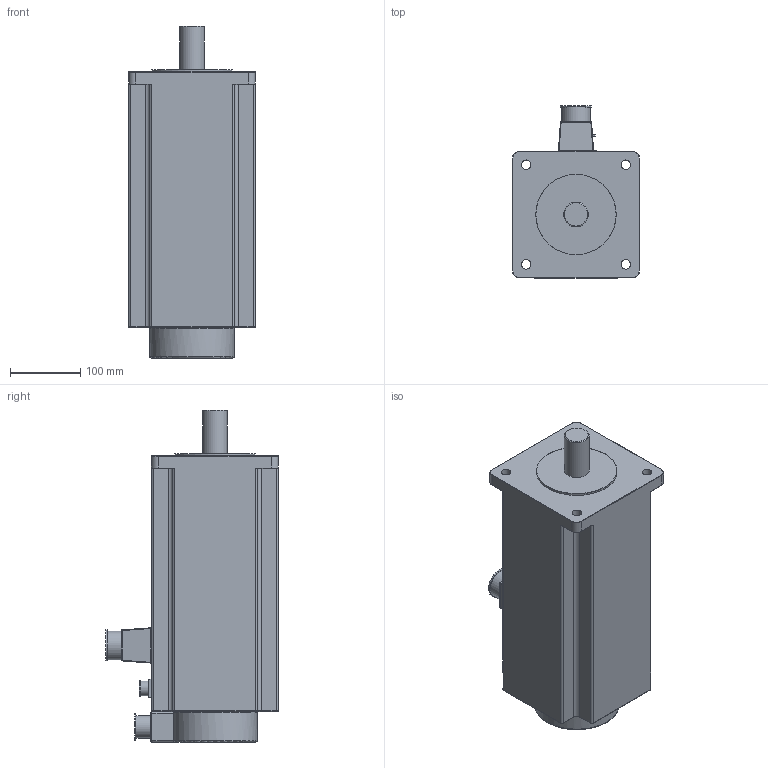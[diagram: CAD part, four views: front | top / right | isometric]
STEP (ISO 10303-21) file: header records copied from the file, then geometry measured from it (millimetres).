
FILE_DESCRIPTION(/* description */ (''),/* implementation_level */ '2;1');
FILE_NAME(/* name */ '180MAH48015 - FZ.stp',/* time_stamp */ '2019-11-22T13:57:09+08:00',/* author */ (''),/* organization */ (''),/* preprocessor_version */ 'ST-DEVELOPER v16',/* originating_system */ 'SIEMENS PLM Software NX 10.0',/* authorisation */ '');
FILE_SCHEMA (('CONFIG_CONTROL_DESIGN'));
Length unit declared in the file: millimetre
Products named in the file (1): 180MAH48015 - FZ
Bounding box: 180 x 245 x 471.01 mm (x, y, z)
Volume: 11302972.3 mm3; surface area: 364157.1 mm2
Topology: 1 solids, 1 shells, 195 faces, 441 edges, 244 vertices
Faces by surface type: cylinder 92, plane 41, torus 37, bspline 12, sphere 11, cone 2
Full cylindrical faces by diameter (mm): 13.5 x4, 21 x1, 23 x1, 32 x1, 35 x1, 39 x1, 41 x1, 44 x1, 114.3 x1
Entity records: 5419 total; most frequent: CARTESIAN_POINT 1097, DIRECTION 973, ORIENTED_EDGE 810, AXIS2_PLACEMENT_3D 406, EDGE_CURVE 405, VERTEX_POINT 238, EDGE_LOOP 229, CIRCLE 212
